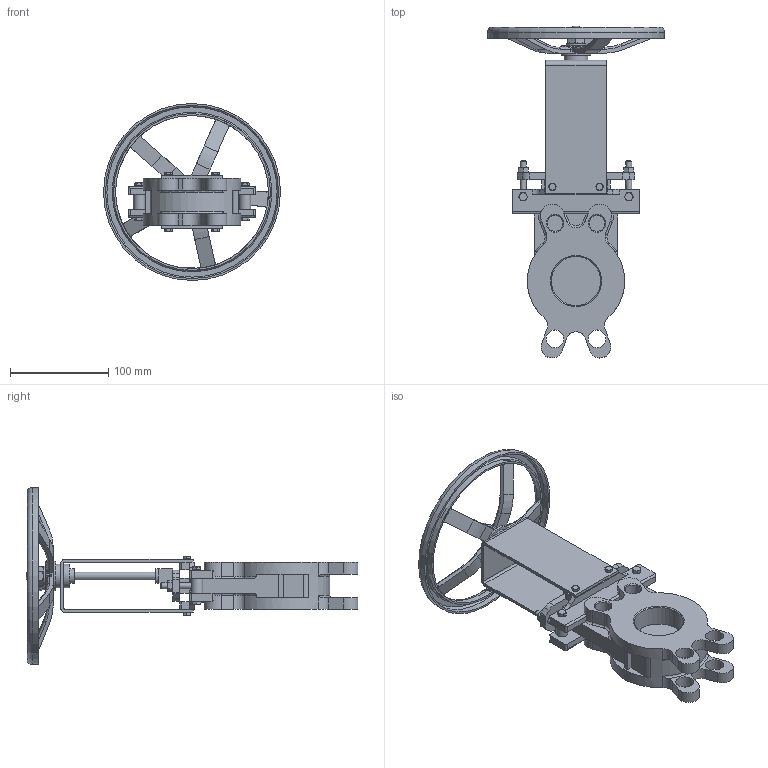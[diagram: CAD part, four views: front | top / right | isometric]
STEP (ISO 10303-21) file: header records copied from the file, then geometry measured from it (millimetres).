
FILE_DESCRIPTION(('STEP AP214'), '1');
FILE_NAME('GVKN1331N-2W-Fb-S Çàäâèæêà øèáåðíàÿ DN.ru Äó50 Ðó10', '', ('UNSPECIFIED'), ('UNSPECIFIED'), 'C3D Converter', 'C3D Toolkit', '');
FILE_SCHEMA(('AUTOMOTIVE_DESIGN { 1 0 10303 214 3 1 1}'));
Length unit declared in the file: millimetre
Products named in the file (1): GVKN1331N-2W-Fb-S
Bounding box: 180 x 337.53 x 180 mm (x, y, z)
Volume: 639985.3 mm3; surface area: 191420 mm2
Topology: 1 solids, 9 shells, 787 faces, 1957 edges, 1216 vertices
Faces by surface type: plane 387, cylinder 184, bspline 88, cone 82, torus 45, sphere 1
Full cylindrical faces by diameter (mm): 4 x4, 5 x6, 6 x13, 7 x4, 8 x5, 12 x2, 15 x2, 16 x6, 18 x4, 20 x1, 24 x2, 26 x1, 30 x1, 50 x2, 155.468 x1, 159.468 x1, 176 x1, 180 x1
Entity records: 41767 total; most frequent: CARTESIAN_POINT 19410, ORIENTED_EDGE 3766, DIRECTION 3412, EDGE_CURVE 1883, AXIS2_PLACEMENT_3D 1274, VERTEX_POINT 1215, EDGE_LOOP 942, LINE 864
